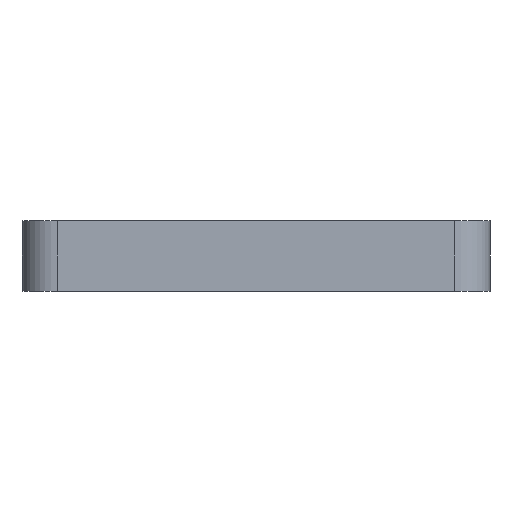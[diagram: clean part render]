
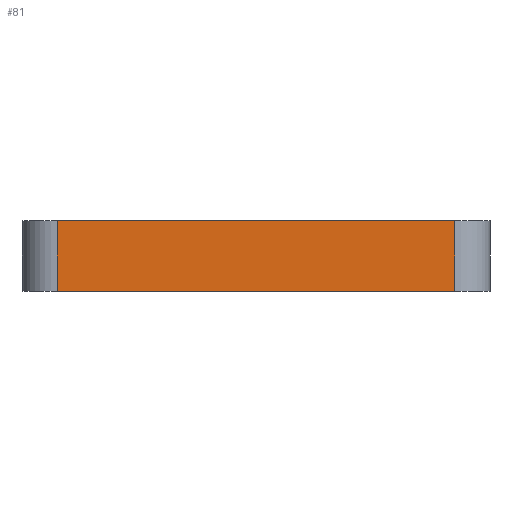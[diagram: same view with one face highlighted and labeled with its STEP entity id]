
A CAD part, left-side view. The second image highlights one B-rep face of the part: STEP entity #81.
In plain terms, the highlighted planar face has unit normal (-1, 0, 0).
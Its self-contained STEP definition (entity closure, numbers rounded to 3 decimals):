
#81=ADVANCED_FACE('23',(#172),#173,.T.);
#172=FACE_OUTER_BOUND('',#268,.T.);
#173=PLANE('',#269);
#268=EDGE_LOOP('',(#567,#568,#569,#570));
#269=AXIS2_PLACEMENT_3D('',#571,#572,#573);
#567=ORIENTED_EDGE('',*,*,#690,.F.);
#568=ORIENTED_EDGE('',*,*,#687,.T.);
#569=ORIENTED_EDGE('',*,*,#692,.F.);
#570=ORIENTED_EDGE('',*,*,#666,.T.);
#571=CARTESIAN_POINT('',(-62.5,10.,0.0));
#572=DIRECTION('',(-1.0,0.0,0.0));
#573=DIRECTION('',(0.0,1.0,0.0));
#666=EDGE_CURVE('',#768,#766,#769,.T.);
#687=EDGE_CURVE('',#803,#801,#804,.T.);
#690=EDGE_CURVE('',#803,#766,#807,.T.);
#692=EDGE_CURVE('',#768,#801,#809,.T.);
#766=VERTEX_POINT('',#1156);
#768=VERTEX_POINT('',#1158);
#769=LINE('',#1159,#1160);
#801=VERTEX_POINT('',#1200);
#803=VERTEX_POINT('',#1202);
#804=LINE('',#1203,#1204);
#807=LINE('',#1207,#1208);
#809=LINE('',#1210,#1211);
#1156=CARTESIAN_POINT('',(-62.5,18.5,0.0));
#1158=CARTESIAN_POINT('',(-62.5,1.5,0.0));
#1159=CARTESIAN_POINT('',(-62.5,0.,0.0));
#1160=VECTOR('',#1258,1.0);
#1200=CARTESIAN_POINT('',(-62.5,1.5,-3.0));
#1202=CARTESIAN_POINT('',(-62.5,18.5,-3.0));
#1203=CARTESIAN_POINT('',(-62.5,0.,-3.0));
#1204=VECTOR('',#1291,1.0);
#1207=CARTESIAN_POINT('',(-62.5,18.5,0.0));
#1208=VECTOR('',#1295,1.0);
#1210=CARTESIAN_POINT('',(-62.5,1.5,0.0));
#1211=VECTOR('',#1296,1.0);
#1258=DIRECTION('',(0.0,1.0,0.0));
#1291=DIRECTION('',(-0.0,-1.0,-0.0));
#1295=DIRECTION('',(-0.0,-0.0,1.0));
#1296=DIRECTION('',(0.0,-0.0,-1.0));
